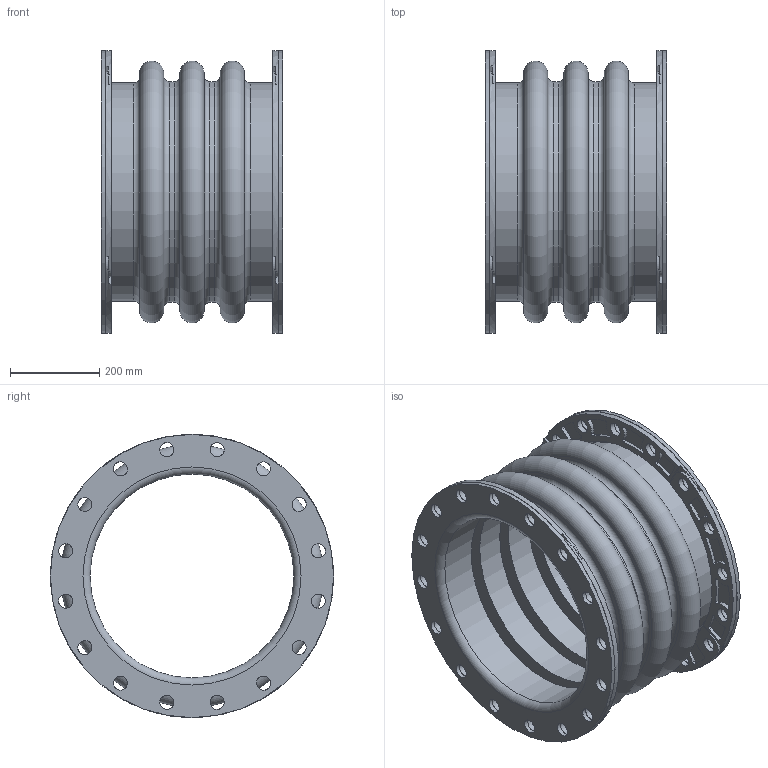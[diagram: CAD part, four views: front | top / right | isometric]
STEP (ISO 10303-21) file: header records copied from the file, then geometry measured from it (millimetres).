
FILE_DESCRIPTION(/* description */ (''),/* implementation_level */ '2;1');
FILE_NAME(/* name */ 'C:\001_Work\Designs\Mercer2014\MQInventor2014\RajR\500 Style\503\New folder\503 18IDx16FF.stp',/* time_stamp */ '2016-03-26T18:03:24-04:00',/* author */ ('rramoutar'),/* organization */ ('Mason Industries Inc.'),/* preprocessor_version */ 'ST-DEVELOPER v15.6',/* originating_system */ 'Autodesk Inventor 2015',/* authorisation */ '');
FILE_SCHEMA (('CONFIG_CONTROL_DESIGN'));
Length unit declared in the file: inch
Products named in the file (1): 503 18IDx16FF
Bounding box: 406.4 x 635 x 635 mm (x, y, z)
Volume: 20286551.2 mm3; surface area: 3149383.9 mm2
Topology: 3 solids, 3 shells, 494 faces, 1344 edges, 886 vertices
Faces by surface type: cylinder 350, plane 116, torus 16, cone 12
Full cylindrical faces by diameter (mm): 31.75 x64, 457.2 x4, 488.95 x2, 495.3 x2, 501.65 x2, 635 x4
Entity records: 16148 total; most frequent: DIRECTION 2994, CARTESIAN_POINT 2595, ORIENTED_EDGE 2452, AXIS2_PLACEMENT_3D 1273, EDGE_CURVE 1226, VERTEX_POINT 874, CIRCLE 778, EDGE_LOOP 764
